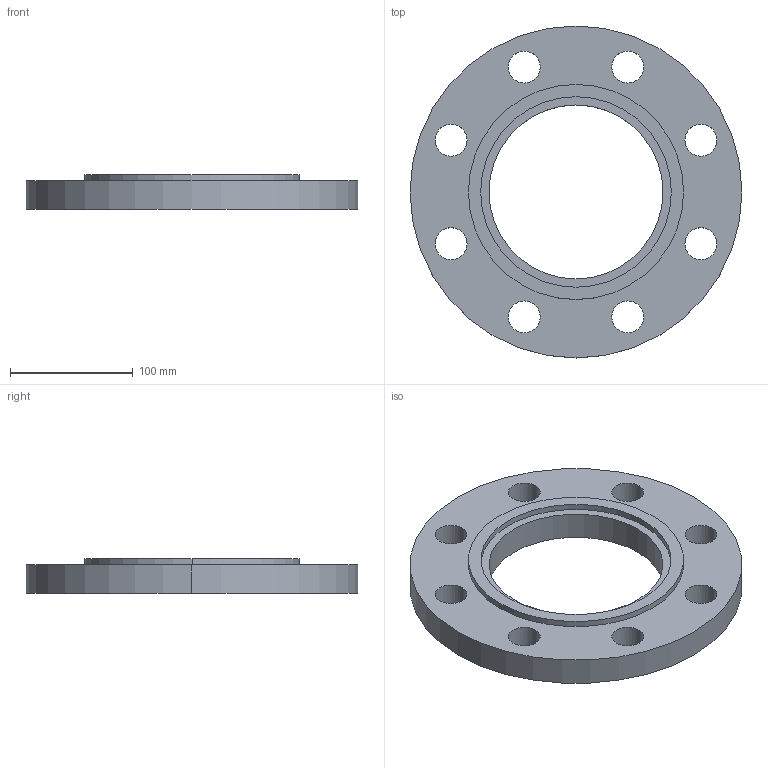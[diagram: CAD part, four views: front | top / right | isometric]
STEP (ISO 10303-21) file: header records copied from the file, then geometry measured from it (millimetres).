
FILE_DESCRIPTION (( 'STEP AP214' ), '1' );
FILE_NAME ('PN40 DN125 Type 01 - Type C Face.STEP', '2019-01-02T19:40:16', ( '' ), ( '' ), 'SwSTEP 2.0', 'SolidWorks 2019', '' );
FILE_SCHEMA (( 'AUTOMOTIVE_DESIGN' ));
Length unit declared in the file: millimetre
Products named in the file (1): PN40 DN125 Type 01 - Type C Face
Bounding box: 270 x 270 x 28 mm (x, y, z)
Volume: 883419.2 mm3; surface area: 124511.9 mm2
Topology: 1 solids, 1 shells, 28 faces, 72 edges, 48 vertices
Faces by surface type: cylinder 24, plane 4
Entity records: 954 total; most frequent: DIRECTION 178, CARTESIAN_POINT 149, ORIENTED_EDGE 144, AXIS2_PLACEMENT_3D 77, EDGE_CURVE 72, CIRCLE 48, VERTEX_POINT 48, EDGE_LOOP 48
